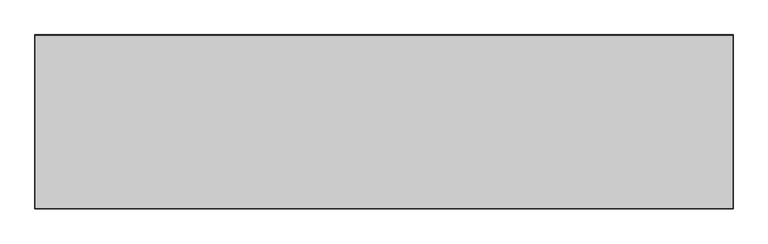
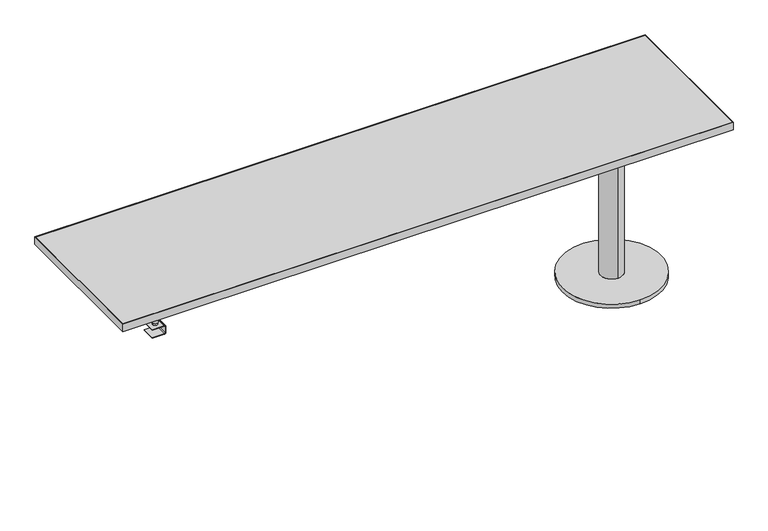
"""IFC4 building model written with IfcOpenShell, lengths in millimetres: furniture geometry, Steelcase Coalesse - Topo - Desktop - Freestanding Straight Ancillary : 96W x 24D - Right - Flat Edge."""

import ifcopenshell
import ifcopenshell.guid

model = None  # the IFC model being written
_history = None  # IfcOwnerHistory: only IFC2X3 demands one
_inside = {}  # id of a spatial element -> (the spatial element, [elements in it])
_under = {}  # id of a project, library or spatial element -> (it, [spatial elements below it])
_declared = {}  # id of a project -> (the project, [libraries it declares])
_typed = {}  # id of a type object -> (the type object, [elements of that type])
_made_of = {}  # id of a material, layer set ... -> (it, [elements and type objects made of it])


def new_model(schema):
    """Start an empty IFC model of exactly this schema.

    Asked for "IFC4X3", IfcOpenShell would pick the latest addendum, in which some entities
    have other attributes; the version numbers below select the first issue.
    IFC2X3 requires an IfcOwnerHistory on every rooted entity: one is made here for all.
    """
    global model, _history
    if schema == "IFC4X3":
        model = ifcopenshell.file(schema_version=(4, 3, 0, 0))
    else:
        model = ifcopenshell.file(schema=schema)
    _inside.clear()
    _under.clear()
    _declared.clear()
    _typed.clear()
    _made_of.clear()
    _history = None
    if model.schema == "IFC2X3":
        org = make("IfcOrganization", Name="unknown")
        user = make(
            "IfcPersonAndOrganization",
            ThePerson=make("IfcPerson", FamilyName="unknown"),
            TheOrganization=org,
        )
        app = make(
            "IfcApplication",
            ApplicationDeveloper=org,
            Version="unknown",
            ApplicationFullName="unknown",
            ApplicationIdentifier="unknown",
        )
        _history = make(
            "IfcOwnerHistory",
            OwningUser=user,
            OwningApplication=app,
            ChangeAction="ADDED",
            CreationDate=0,
        )
    return model


def make(cls, **values):
    """One entity of the class cls with the attributes given. An attribute that is None is left unset."""
    return model.create_entity(
        cls, **{name: value for name, value in values.items() if value is not None}
    )


def rooted(cls, **values):
    """An entity with a GlobalId (a new one), such as an element, a storey or a relation."""
    return make(cls, GlobalId=ifcopenshell.guid.new(), OwnerHistory=_history, **values)


def si_unit(unit_type, name, prefix=None):
    """IfcSIUnit, for example si_unit("LENGTHUNIT", "METRE", prefix="MILLI")."""
    return make("IfcSIUnit", UnitType=unit_type, Prefix=prefix, Name=name)


def assignment(units):
    """IfcUnitAssignment: the units of a project."""
    return None if units is None else make("IfcUnitAssignment", Units=units)


def point(xyz):
    """IfcCartesianPoint."""
    return None if xyz is None else make("IfcCartesianPoint", Coordinates=xyz)


def direction(xyz):
    """IfcDirection."""
    return None if xyz is None else make("IfcDirection", DirectionRatios=xyz)


def frame(location, z_axis=None, x_axis=None):
    """IfcAxis2Placement3D, a coordinate frame: its origin and axes. An axis left out is left unset."""
    return make(
        "IfcAxis2Placement3D",
        Location=point(location),
        Axis=direction(z_axis),
        RefDirection=direction(x_axis),
    )


def origin():
    """The frame at (0, 0, 0) with its axes left unset."""
    return frame((0.0, 0.0, 0.0))


def place(relative_to, where):
    """IfcLocalPlacement: puts the frame where relative to a parent placement (None: the world)."""
    return make(
        "IfcLocalPlacement", PlacementRelTo=relative_to, RelativePlacement=where
    )


def context(
    kind, dimensions, precision=None, world=None, true_north=None, identifier=None
):
    """IfcGeometricRepresentationContext, for example the 3D "Model" context."""
    return make(
        "IfcGeometricRepresentationContext",
        ContextIdentifier=identifier,
        ContextType=kind,
        CoordinateSpaceDimension=dimensions,
        Precision=precision,
        WorldCoordinateSystem=world,
        TrueNorth=true_north,
    )


def project(units=None, contexts=None):
    """IfcProject with its units and contexts."""
    return rooted(
        "IfcProject",
        Name="project",
        RepresentationContexts=contexts,
        UnitsInContext=assignment(units),
    )


def spatial(cls, under=None, at=None, **own):
    """A site, building, storey or space (cls), placed at a placement, below another one or the project."""
    s = rooted(cls, ObjectPlacement=at, **own)
    if under is not None:
        _under.setdefault(under.id(), (under, []))[1].append(s)
    return s


def polyline(points):
    """IfcPolyline through the points."""
    return make("IfcPolyline", Points=[point(p) for p in points])


def circle_curve(where, radius):
    """IfcCircle in the frame where."""
    return make("IfcCircle", Position=where, Radius=radius)


def outline(outer, holes=None, kind="AREA"):
    """IfcArbitraryClosedProfileDef: a profile drawn as a closed curve; with holes, ...WithVoids."""
    if holes is None:
        return make("IfcArbitraryClosedProfileDef", ProfileType=kind, OuterCurve=outer)
    return make(
        "IfcArbitraryProfileDefWithVoids",
        ProfileType=kind,
        OuterCurve=outer,
        InnerCurves=holes,
    )


def extrude(swept, where, along, depth):
    """IfcExtrudedAreaSolid: the profile swept, set in the frame where, extruded along a direction by depth."""
    return make(
        "IfcExtrudedAreaSolid",
        SweptArea=swept,
        Position=where,
        ExtrudedDirection=direction(along),
        Depth=depth,
    )


def shape(context_of_items, identifier, shape_type, items):
    """IfcShapeRepresentation: the items that make up one representation, for example the "Body"."""
    return make(
        "IfcShapeRepresentation",
        ContextOfItems=context_of_items,
        RepresentationIdentifier=identifier,
        RepresentationType=shape_type,
        Items=items,
    )


def source(mapping_origin, context_of_items, identifier, shape_type, items):
    """IfcRepresentationMap: a shape defined once, which mapped items show again and again."""
    return make(
        "IfcRepresentationMap",
        MappingOrigin=mapping_origin,
        MappedRepresentation=shape(context_of_items, identifier, shape_type, items),
    )


def transform(
    local_origin,
    x_axis=None,
    y_axis=None,
    z_axis=None,
    scale=None,
    scale2=None,
    scale3=None,
    uniform=True,
):
    """IfcCartesianTransformationOperator3D, or its non-uniform kind. x_axis, y_axis, z_axis: its Axis1, 2, 3."""
    if uniform:
        return make(
            "IfcCartesianTransformationOperator3D",
            Axis1=direction(x_axis),
            Axis2=direction(y_axis),
            LocalOrigin=point(local_origin),
            Scale=scale,
            Axis3=direction(z_axis),
        )
    return make(
        "IfcCartesianTransformationOperator3DnonUniform",
        Axis1=direction(x_axis),
        Axis2=direction(y_axis),
        LocalOrigin=point(local_origin),
        Scale=scale,
        Axis3=direction(z_axis),
        Scale2=scale2,
        Scale3=scale3,
    )


def mapped(mapping_source, mapping_target):
    """IfcMappedItem: shows the shape of a source again, moved by a transform."""
    return make(
        "IfcMappedItem", MappingSource=mapping_source, MappingTarget=mapping_target
    )


def made_of(thing, what):
    """Note that an element or type object is made of a material, layer set ...; save() writes the relation."""
    if what is not None:
        _made_of.setdefault(what.id(), (what, []))[1].append(thing)
    return thing


def element(
    cls,
    number,
    at=None,
    inside=None,
    cuts=None,
    type_object=None,
    material=None,
    context=None,
    identifier="Body",
    shape_type=None,
    held_by="IfcProductDefinitionShape",
    body=None,
    shapes=None,
    **own,
):
    """One element of the class cls, such as IfcWall. Its Tag is "e" and its number.

    at: its placement. inside: the storey or other place that contains it. cuts: it is an
    opening in that element (IfcRelVoidsElement). A single representation is given by context,
    identifier, shape_type and body (its items); several are given by shapes. held_by: the class
    of the entity that holds the representations. save() writes the other relations.
    """
    e = rooted(cls, Tag="e%d" % number, ObjectPlacement=at, **own)
    if body is not None:
        shapes = [shape(context, identifier, shape_type, body)]
    if shapes is not None:
        e.Representation = make(held_by, Representations=shapes)
    if inside is not None:
        _inside.setdefault(inside.id(), (inside, []))[1].append(e)
    if cuts is not None:
        rooted(
            "IfcRelVoidsElement", RelatingBuildingElement=cuts, RelatedOpeningElement=e
        )
    if type_object is not None:
        _typed.setdefault(type_object.id(), (type_object, []))[1].append(e)
    return made_of(e, material)


def aggregate(whole, parts):
    """IfcRelAggregates: a whole, such as a stair, and the parts it consists of."""
    return rooted("IfcRelAggregates", RelatingObject=whole, RelatedObjects=parts)


def save(model, path):
    """Write the relations noted so far, then the file.

    IfcRelAggregates (storeys below a building ...), IfcRelContainedInSpatialStructure (elements
    in a storey), IfcRelDefinesByType, IfcRelAssociatesMaterial and IfcRelDeclares: one each for
    every whole, place, type object, material and project.
    """
    for whole, parts in _under.values():
        aggregate(whole, parts)
    for where, things in _inside.values():
        rooted(
            "IfcRelContainedInSpatialStructure",
            RelatedElements=things,
            RelatingStructure=where,
        )
    for kind, things in _typed.values():
        rooted("IfcRelDefinesByType", RelatedObjects=things, RelatingType=kind)
    for what, things in _made_of.values():
        rooted("IfcRelAssociatesMaterial", RelatedObjects=things, RelatingMaterial=what)
    for by, libraries in _declared.values():
        rooted("IfcRelDeclares", RelatingContext=by, RelatedDefinitions=libraries)
    model.write(path)


def plane_surface(at):
    """IfcPlane: the flat surface through the origin of the frame at, square to its z axis."""
    return make("IfcPlane", Position=at)


def cylinder_surface(at, radius):
    """IfcCylindricalSurface: all points at the distance radius from the z axis of the frame at."""
    return make("IfcCylindricalSurface", Position=at, Radius=radius)


def revolved_surface(curve, axis_point, axis_direction):
    """IfcSurfaceOfRevolution: the curve turned about the line through axis_point along axis_direction."""
    return make(
        "IfcSurfaceOfRevolution",
        SweptCurve=make("IfcArbitraryOpenProfileDef", ProfileType="CURVE", Curve=curve),
        AxisPosition=make("IfcAxis1Placement", Location=point(axis_point), Axis=direction(axis_direction)),
    )


def advanced_brep(points, edges, surfaces, faces):
    """IfcAdvancedBrep: a solid bounded by faces that lie on surfaces and meet in shared edges.

    An edge is (start, end): straight between two places in points (the first is 0);
    or (start, end, curve); or (start, end, curve, False) where it runs against its curve.
    A face is (place in surfaces, loops), or (place, loops, False) where it looks against
    its surface's normal. A loop lists edges by number (the first is 1), with a minus sign
    where the edge is run from its end to its start. The first loop is the outer one.
    """
    corners = [point(p) for p in points]
    vertices = [make("IfcVertexPoint", VertexGeometry=c) for c in corners]
    made = []
    for start, end, *more in edges:
        made.append(
            make(
                "IfcEdgeCurve",
                EdgeStart=vertices[start],
                EdgeEnd=vertices[end],
                EdgeGeometry=more[0] if more else make("IfcPolyline", Points=[corners[start], corners[end]]),
                SameSense=more[1] if len(more) > 1 else True,
            )
        )
    hull = []
    for where, loops, *sense in faces:
        bounds = []
        for j, loop in enumerate(loops):
            ring = [make("IfcOrientedEdge", EdgeElement=made[abs(k) - 1], Orientation=k > 0) for k in loop]
            bounds.append(
                make(
                    "IfcFaceOuterBound" if j == 0 else "IfcFaceBound",
                    Bound=make("IfcEdgeLoop", EdgeList=ring),
                    Orientation=True,
                )
            )
        hull.append(make("IfcAdvancedFace", Bounds=bounds, FaceSurface=surfaces[where], SameSense=sense[0] if sense else True))
    return make("IfcAdvancedBrep", Outer=make("IfcClosedShell", CfsFaces=hull))


def furniture_59a98a84(model_context):
    return source(origin(), model_context, "Body", "SolidModel", [
        advanced_brep(
        [(2128.774, -501.6500363, 16.8148), (2128.774, -107.9500363, 16.8148), (2128.774, -260.3500363, 16.8148), (2128.774, -349.2500363, 16.8148), (2128.774, -501.6500363, 0.0), (2128.774, -107.9500363, 0.0), (2128.774, -349.2500363, 635.0), (2128.774, -260.3500363, 635.0), (2128.774, -269.8509568, 635.0), (2128.774, -339.7491159, 635.0), (2128.774, -339.7491159, 688.975), (2128.774, -269.8509568, 688.975), (2230.3741938, -203.2000242, 692.15), (2027.1738062, -203.2000242, 692.15), (2027.1738062, -406.4000484, 692.15), (2230.3741938, -406.4000484, 692.15), (2230.3741938, -203.2000242, 688.975), (2230.3741938, -406.4000484, 688.975), (2027.1738062, -406.4000484, 688.975), (2027.1738062, -203.2000242, 688.975)],
        [
            (0, 1, circle_curve(frame((2128.774, -304.8000363, 16.8148), z_axis=(0.0, 0.0, 1.0), x_axis=(0.0, 1.0, 0.0)), 196.85)),
            (1, 0, circle_curve(frame((2128.774, -304.8000363, 16.8148), z_axis=(0.0, 0.0, 1.0), x_axis=(0.0, 1.0, 0.0)), 196.85)),
            (2, 3, circle_curve(frame((2128.774, -304.8000363, 16.8148), z_axis=(0.0, 0.0, -1.0), x_axis=(0.0, 1.0, 0.0)), 44.45)),
            (3, 2, circle_curve(frame((2128.774, -304.8000363, 16.8148), z_axis=(0.0, 0.0, -1.0), x_axis=(0.0, 1.0, 0.0)), 44.45)),
            (4, 5, circle_curve(frame((2128.774, -304.8000363, 0.0), z_axis=(0.0, 0.0, -1.0), x_axis=(0.0, 1.0, 0.0)), 196.85)),
            (5, 4, circle_curve(frame((2128.774, -304.8000363, 0.0), z_axis=(0.0, 0.0, -1.0), x_axis=(0.0, 1.0, 0.0)), 196.85)),
            (0, 4),
            (5, 1),
            (6, 7, circle_curve(frame((2128.774, -304.8000363, 635.0), z_axis=(0.0, 0.0, 1.0), x_axis=(0.0, 1.0, 0.0)), 44.45)),
            (7, 6, circle_curve(frame((2128.774, -304.8000363, 635.0), z_axis=(0.0, 0.0, 1.0), x_axis=(0.0, 1.0, 0.0)), 44.45)),
            (8, 9, circle_curve(frame((2128.774, -304.8000363, 635.0), z_axis=(0.0, 0.0, -1.0), x_axis=(0.0, 1.0, 0.0)), 34.9490796)),
            (9, 8, circle_curve(frame((2128.774, -304.8000363, 635.0), z_axis=(0.0, 0.0, -1.0), x_axis=(0.0, 1.0, 0.0)), 34.9490796)),
            (6, 3),
            (2, 7),
            (10, 9),
            (8, 11),
            (11, 10, circle_curve(frame((2128.774, -304.8000363, 688.975), z_axis=(0.0, 0.0, -1.0), x_axis=(0.0, 1.0, 0.0)), 34.9490796)),
            (10, 11, circle_curve(frame((2128.774, -304.8000363, 688.975), z_axis=(0.0, 0.0, -1.0), x_axis=(0.0, 1.0, 0.0)), 34.9490796)),
            (12, 13),
            (13, 14),
            (14, 15),
            (15, 12),
            (16, 17),
            (17, 18),
            (18, 19),
            (19, 16),
            (12, 16),
            (19, 13),
            (18, 14),
            (17, 15),
        ],
        [
            plane_surface(frame((2128.774, -107.9500363, 16.8148), z_axis=(0.0, 0.0, 1.0), x_axis=(-1.0, 0.0, 0.0))),
            plane_surface(frame((2128.774, -107.9500363, 0.0), z_axis=(0.0, 0.0, -1.0), x_axis=(1.0, 0.0, 0.0))),
            cylinder_surface(frame((2128.774, -304.8000363, 0.0), z_axis=(0.0, 0.0, 1.0), x_axis=(0.0, 1.0, 0.0)), 196.85),
            plane_surface(frame((2128.774, -260.3500363, 635.0), z_axis=(0.0, 0.0, 1.0), x_axis=(-1.0, 0.0, 0.0))),
            cylinder_surface(frame((2128.774, -304.8000363, 0.0), z_axis=(0.0, 0.0, 1.0), x_axis=(0.0, 1.0, 0.0)), 44.45),
            cylinder_surface(frame((2128.774, -304.8000363, 635.0), z_axis=(0.0, 0.0, 1.0), x_axis=(0.0, 1.0, 0.0)), 34.9490796),
            plane_surface(frame((2027.1738062, -203.2000242, 692.15), z_axis=(0.0, 0.0, 1.0), x_axis=(-1.0, 0.0, 0.0))),
            plane_surface(frame((2027.1738062, -203.2000242, 688.975), z_axis=(0.0, 0.0, -1.0), x_axis=(1.0, 0.0, 0.0))),
            plane_surface(frame((2230.3741938, -203.2000242, 692.15), z_axis=(0.0, 1.0, 0.0), x_axis=(0.0, 0.0, -1.0))),
            plane_surface(frame((2027.1738062, -203.2000242, 692.15), z_axis=(-1.0, 0.0, 0.0), x_axis=(0.0, 0.0, -1.0))),
            plane_surface(frame((2027.1738062, -406.4000484, 692.15), z_axis=(0.0, -1.0, 0.0), x_axis=(0.0, 0.0, -1.0))),
            plane_surface(frame((2230.3741938, -406.4000484, 692.15), z_axis=(1.0, 0.0, 0.0), x_axis=(0.0, 0.0, -1.0))),
        ],
        [
            (0, [[1, 2], [3, 4]]),
            (1, [[5, 6]]),
            (2, [[-1, 7, -6, 8]]),
            (2, [[-2, -8, -5, -7]]),
            (3, [[9, 10], [11, 12]]),
            (4, [[-9, 13, -3, 14]]),
            (4, [[-10, -14, -4, -13]]),
            (5, [[15, -11, 16, 17]]),
            (5, [[-15, 18, -16, -12]]),
            (6, [[19, 20, 21, 22]]),
            (7, [[23, 24, 25, 26], [-17, -18]]),
            (8, [[-19, 27, -26, 28]]),
            (9, [[-20, -28, -25, 29]]),
            (10, [[-21, -29, -24, 30]]),
            (11, [[-22, -30, -23, -27]]),
        ],
    ),
        extrude(outline(polyline([(2437.383783, -3.1750242), (2437.383783, -606.4250484), (1.016217, -606.4250484), (1.016217, -3.1750242), (2437.383783, -3.1750242)])), frame((0.0, 0.0, 692.15), z_axis=(0.0, 0.0, 1.0), x_axis=(1.0, 0.0, 0.0)), (0.0, 0.0, 1.0), 31.75),
        extrude(outline(polyline([(2438.4, 0.0), (2438.4, -609.6), (0.0, -609.6), (0.0, 0.0), (2438.4, 0.0)]), holes=[polyline([(2437.383783, -3.1750242), (1.016217, -3.1750242), (1.016217, -606.4250484), (2437.383783, -606.4250484), (2437.383783, -3.1750242)])]), frame((0.0, 0.0, 692.15), z_axis=(0.0, 0.0, 1.0), x_axis=(1.0, 0.0, 0.0)), (0.0, 0.0, 1.0), 31.75),
        extrude(outline(polyline([(-109.2200048, 691.1168589), (-127.2794, 691.1168589), (-127.2794, 682.2694), (-171.1706, 682.2694), (-171.1706, 691.1168589), (-189.2300194, 691.1168589), (-189.2300194, 692.15), (-170.18, 692.15), (-170.18, 683.304655), (-128.27, 683.304655), (-128.27, 692.15), (-109.2200048, 692.15), (-109.2200048, 691.1168589)])), frame((57.0738, 0.0, 0.0), z_axis=(1.0, 0.0, 0.0), x_axis=(0.0, 1.0, 0.0)), (0.0, 0.0, 1.0), 2324.2523581),
        extrude(outline(polyline([(-564.8960426, 691.1168589), (-564.8960426, 692.15), (-545.8460475, 692.15), (-545.8460475, 683.304655), (-503.9360475, 683.304655), (-503.9360475, 692.15), (-484.8860281, 692.15), (-484.8860281, 691.1168589), (-502.9454475, 691.1168589), (-502.9454475, 682.2694), (-546.8366475, 682.2694), (-546.8366475, 691.1168589), (-564.8960426, 691.1168589)])), frame((57.0738, 0.0, 0.0), z_axis=(1.0, 0.0, 0.0), x_axis=(0.0, 1.0, 0.0)), (0.0, 0.0, 1.0), 2324.2523581),
        advanced_brep(
        [(171.4500969, -267.5128138, 692.15), (107.9499031, -267.5128138, 692.15), (107.9499031, -331.0127895, 692.15), (171.4500969, -331.0127895, 692.15), (171.4500969, -267.5128138, 688.975), (171.4500969, -331.0127895, 688.975), (107.9499031, -331.0127895, 688.975), (107.9499031, -267.5128138, 688.975), (139.7, -318.3128016, 688.975), (139.7, -280.2128016, 688.975), (139.7, -318.3128016, 655.6248), (139.7, -280.2128016, 655.6248), (139.7, -310.4626736, 655.6248), (139.7, -288.0629297, 655.6248), (139.7, -310.4626736, 621.2586), (139.7, -288.0629297, 621.2586), (139.7, -314.5105403, 621.2586), (139.7, -284.015063, 621.2586), (139.7, -314.5105403, 615.1626), (139.7, -284.015063, 615.1626), (139.7, -311.9628016, 615.1626), (139.7, -286.5628016, 615.1626), (139.7, -311.9628016, 609.4984), (139.7, -286.5628016, 609.4984)],
        [
            (0, 1),
            (1, 2),
            (2, 3),
            (3, 0),
            (4, 5),
            (5, 6),
            (6, 7),
            (7, 4),
            (8, 9, circle_curve(frame((139.7, -299.2628016, 688.975), z_axis=(0.0, 0.0, 1.0), x_axis=(0.0, 1.0, 0.0)), 19.05)),
            (9, 8, circle_curve(frame((139.7, -299.2628016, 688.975), z_axis=(0.0, 0.0, 1.0), x_axis=(0.0, 1.0, 0.0)), 19.05)),
            (0, 4),
            (7, 1),
            (6, 2),
            (5, 3),
            (10, 11, circle_curve(frame((139.7, -299.2628016, 655.6248), z_axis=(0.0, 0.0, -1.0), x_axis=(0.0, 1.0, 0.0)), 19.05)),
            (11, 10, circle_curve(frame((139.7, -299.2628016, 655.6248), z_axis=(0.0, 0.0, -1.0), x_axis=(0.0, 1.0, 0.0)), 19.05)),
            (12, 13, circle_curve(frame((139.7, -299.2628016, 655.6248), z_axis=(0.0, 0.0, 1.0), x_axis=(0.0, 1.0, 0.0)), 11.1998719)),
            (13, 12, circle_curve(frame((139.7, -299.2628016, 655.6248), z_axis=(0.0, 0.0, 1.0), x_axis=(0.0, 1.0, 0.0)), 11.1998719)),
            (11, 9),
            (8, 10),
            (12, 14),
            (14, 15, circle_curve(frame((139.7, -299.2628016, 621.2586), z_axis=(0.0, 0.0, 1.0), x_axis=(0.0, 1.0, 0.0)), 11.1998719)),
            (15, 13),
            (15, 14, circle_curve(frame((139.7, -299.2628016, 621.2586), z_axis=(0.0, 0.0, 1.0), x_axis=(0.0, 1.0, 0.0)), 11.1998719)),
            (16, 17, circle_curve(frame((139.7, -299.2628016, 621.2586), z_axis=(0.0, 0.0, 1.0), x_axis=(0.0, 1.0, 0.0)), 15.2477387)),
            (17, 16, circle_curve(frame((139.7, -299.2628016, 621.2586), z_axis=(0.0, 0.0, 1.0), x_axis=(0.0, 1.0, 0.0)), 15.2477387)),
            (18, 19, circle_curve(frame((139.7, -299.2628016, 615.1626), z_axis=(0.0, 0.0, -1.0), x_axis=(0.0, 1.0, 0.0)), 15.2477387)),
            (19, 18, circle_curve(frame((139.7, -299.2628016, 615.1626), z_axis=(0.0, 0.0, -1.0), x_axis=(0.0, 1.0, 0.0)), 15.2477387)),
            (20, 21, circle_curve(frame((139.7, -299.2628016, 615.1626), z_axis=(0.0, 0.0, 1.0), x_axis=(0.0, 1.0, 0.0)), 12.7)),
            (21, 20, circle_curve(frame((139.7, -299.2628016, 615.1626), z_axis=(0.0, 0.0, 1.0), x_axis=(0.0, 1.0, 0.0)), 12.7)),
            (16, 18),
            (19, 17),
            (22, 23, circle_curve(frame((139.7, -299.2628016, 609.4984), z_axis=(0.0, 0.0, -1.0), x_axis=(0.0, 1.0, 0.0)), 12.7)),
            (23, 22, circle_curve(frame((139.7, -299.2628016, 609.4984), z_axis=(0.0, 0.0, -1.0), x_axis=(0.0, 1.0, 0.0)), 12.7)),
            (23, 21),
            (20, 22),
        ],
        [
            plane_surface(frame((107.9499031, -267.5128138, 692.15), z_axis=(0.0, 0.0, 1.0), x_axis=(-1.0, 0.0, 0.0))),
            plane_surface(frame((107.9499031, -267.5128138, 688.975), z_axis=(0.0, 0.0, -1.0), x_axis=(1.0, 0.0, 0.0))),
            plane_surface(frame((171.4500969, -267.5128138, 692.15), z_axis=(0.0, 1.0, 0.0), x_axis=(0.0, 0.0, -1.0))),
            plane_surface(frame((107.9499031, -267.5128138, 692.15), z_axis=(-1.0, 0.0, 0.0), x_axis=(0.0, 0.0, -1.0))),
            plane_surface(frame((107.9499031, -331.0127895, 692.15), z_axis=(0.0, -1.0, 0.0), x_axis=(0.0, 0.0, -1.0))),
            plane_surface(frame((171.4500969, -331.0127895, 692.15), z_axis=(1.0, 0.0, 0.0), x_axis=(0.0, 0.0, -1.0))),
            plane_surface(frame((139.7, -280.2128016, 655.6248), z_axis=(0.0, 0.0, -1.0), x_axis=(1.0, 0.0, 0.0))),
            cylinder_surface(frame((139.7, -299.2628016, 655.6248), z_axis=(0.0, 0.0, 1.0), x_axis=(0.0, 1.0, 0.0)), 19.05),
            cylinder_surface(frame((139.7, -299.2628016, 621.2586), z_axis=(0.0, 0.0, 1.0), x_axis=(0.0, 1.0, 0.0)), 11.1998719),
            plane_surface(frame((139.7, -284.015063, 621.2586), z_axis=(0.0, 0.0, 1.0), x_axis=(-1.0, 0.0, 0.0))),
            plane_surface(frame((139.7, -284.015063, 615.1626), z_axis=(0.0, 0.0, -1.0), x_axis=(1.0, 0.0, 0.0))),
            cylinder_surface(frame((139.7, -299.2628016, 615.1626), z_axis=(0.0, 0.0, 1.0), x_axis=(0.0, 1.0, 0.0)), 15.2477387),
            plane_surface(frame((139.7, -286.5628016, 609.4984), z_axis=(0.0, 0.0, -1.0), x_axis=(1.0, 0.0, 0.0))),
            cylinder_surface(frame((139.7, -299.2628016, 609.4984), z_axis=(0.0, 0.0, 1.0), x_axis=(0.0, 1.0, 0.0)), 12.7),
        ],
        [
            (0, [[1, 2, 3, 4]]),
            (1, [[5, 6, 7, 8], [9, 10]]),
            (2, [[-1, 11, -8, 12]]),
            (3, [[-2, -12, -7, 13]]),
            (4, [[-3, -13, -6, 14]]),
            (5, [[-4, -14, -5, -11]]),
            (6, [[15, 16], [17, 18]]),
            (7, [[-16, 19, -9, 20]]),
            (7, [[-15, -20, -10, -19]]),
            (8, [[21, 22, 23, -17]]),
            (8, [[-21, -18, -23, 24]]),
            (9, [[25, 26], [-22, -24]]),
            (10, [[27, 28], [29, 30]]),
            (11, [[-25, 31, -28, 32]]),
            (11, [[-26, -32, -27, -31]]),
            (12, [[33, 34]]),
            (13, [[-34, 35, -29, 36]]),
            (13, [[-33, -36, -30, -35]]),
        ],
    ),
        advanced_brep(
        [(200.6639385, -123.825, 612.0384), (205.7439287, -123.825, 606.9584098), (205.7439287, -123.825, 580.2884171), (200.6639117, -123.825, 575.2084), (152.4041613, -123.825, 575.2084), (152.4041613, -123.825, 577.7484), (200.6641613, -123.825, 577.7484), (203.2039675, -123.825, 580.2882062), (203.2039675, -123.825, 606.9584098), (200.6639773, -123.825, 609.4984), (152.4041613, -123.825, 609.4984), (152.4041613, -123.825, 612.0384), (200.6639385, -549.2750484, 612.0384), (152.4041613, -549.2750484, 612.0384), (152.4041613, -549.2750484, 609.4984), (200.6639773, -549.2750484, 609.4984), (203.2039675, -549.2750484, 606.9584098), (203.2039675, -549.2750484, 580.2882062), (200.6641613, -549.2750484, 577.7484), (152.4041613, -549.2750484, 577.7484), (152.4041613, -549.2750484, 575.2084), (200.6639117, -549.2750484, 575.2084), (205.7439287, -549.2750484, 580.2884171), (205.7439287, -549.2750484, 606.9584098), (152.4041613, -493.3950291, 575.2084), (196.8543551, -493.3950291, 575.2084), (196.8543551, -180.7210184, 575.2084), (152.4041613, -180.7210184, 575.2084), (152.4041613, -180.7210184, 577.7484), (152.4041613, -493.3950291, 577.7484), (196.8543551, -180.7210184, 577.7484), (196.8543551, -493.3950291, 577.7484), (152.4041613, -493.3950291, 609.4984), (196.8543551, -493.3950291, 609.4984), (196.8543551, -180.7210184, 609.4984), (152.4041613, -180.7210184, 609.4984), (152.4041613, -180.7210184, 612.0384), (152.4041613, -493.3950291, 612.0384), (196.8543551, -180.7210184, 612.0384), (196.8543551, -493.3950291, 612.0384), (168.1523551, -150.1981097, 612.0384), (187.4563551, -150.1981097, 612.0384), (168.1523551, -523.9179378, 612.0384), (187.4563551, -523.9179378, 612.0384), (146.0537737, -175.6410959, 682.2694), (209.5543551, -175.6410959, 682.2694), (215.9043551, -169.2910959, 682.2694), (215.9043551, -131.1051235, 682.2694), (208.5135646, -124.840999, 682.2694), (147.0945642, -124.840999, 682.2694), (139.7043551, -131.1910475, 682.2694), (139.7043551, -169.2051719, 682.2694), (146.0537737, -498.4749516, 682.2694), (139.7043551, -504.9108755, 682.2694), (139.7043551, -542.925, 682.2694), (147.0945642, -549.2750484, 682.2694), (208.5135646, -549.2750484, 682.2694), (215.9043551, -543.010924, 682.2694), (215.9043551, -504.8249516, 682.2694), (209.5543551, -498.4749516, 682.2694), (146.0537737, -175.6410959, 679.0944), (139.7043551, -169.2051719, 679.0944), (139.7043551, -131.1910475, 679.0944), (147.0945642, -124.840999, 679.0944), (208.5135646, -124.840999, 679.0944), (215.9043551, -131.1051235, 679.0944), (215.9043551, -169.2910959, 679.0944), (209.5543551, -175.6410959, 679.0944), (166.6283551, -150.1981097, 679.0944), (188.9803551, -150.1981097, 679.0944), (146.0537737, -498.4749516, 679.0944), (209.5543551, -498.4749516, 679.0944), (215.9043551, -504.8249516, 679.0944), (215.9043551, -543.010924, 679.0944), (208.5135646, -549.2750484, 679.0944), (147.0945642, -549.2750484, 679.0944), (139.7043551, -542.925, 679.0944), (139.7043551, -504.9108755, 679.0944), (166.6283551, -523.9179378, 679.0944), (188.9803551, -523.9179378, 679.0944), (187.4563551, -150.1981097, 621.2586), (168.1523551, -150.1981097, 621.2586), (187.4563551, -523.9179378, 621.2586), (168.1523551, -523.9179378, 621.2586), (166.6283551, -150.1981097, 621.2586), (188.9803551, -150.1981097, 621.2586), (166.6283551, -523.9179378, 621.2586), (188.9803551, -523.9179378, 621.2586)],
        [
            (0, 1, circle_curve(frame((200.6639385, -123.825, 606.9584098), z_axis=(0.0, 1.0, 0.0), x_axis=(-1.0, 0.0, 0.0)), 5.0799902)),
            (1, 2),
            (2, 3, circle_curve(frame((200.6639117, -123.825, 580.2884171), z_axis=(0.0, 1.0, 0.0), x_axis=(-1.0, 0.0, 0.0)), 5.0800171)),
            (3, 4),
            (4, 5),
            (5, 6),
            (6, 7, circle_curve(frame((200.6641613, -123.825, 580.2882062), z_axis=(0.0, -1.0, 0.0), x_axis=(-1.0, 0.0, 0.0)), 2.5398062)),
            (7, 8),
            (8, 9, circle_curve(frame((200.6639773, -123.825, 606.9584098), z_axis=(0.0, -1.0, 0.0), x_axis=(-1.0, 0.0, 0.0)), 2.5399902)),
            (9, 10),
            (10, 11),
            (11, 0),
            (12, 13),
            (13, 14),
            (14, 15),
            (15, 16, circle_curve(frame((200.6639773, -549.2750484, 606.9584098), z_axis=(0.0, 1.0, 0.0), x_axis=(-1.0, 0.0, 0.0)), 2.5399902)),
            (16, 17),
            (17, 18, circle_curve(frame((200.6641613, -549.2750484, 580.2882062), z_axis=(0.0, 1.0, 0.0), x_axis=(-1.0, 0.0, 0.0)), 2.5398062)),
            (18, 19),
            (19, 20),
            (20, 21),
            (21, 22, circle_curve(frame((200.6639117, -549.2750484, 580.2884171), z_axis=(0.0, -1.0, 0.0), x_axis=(-1.0, 0.0, 0.0)), 5.0800171)),
            (22, 23),
            (23, 12, circle_curve(frame((200.6639385, -549.2750484, 606.9584098), z_axis=(0.0, -1.0, 0.0), x_axis=(-1.0, 0.0, 0.0)), 5.0799902)),
            (0, 12),
            (23, 1),
            (22, 2),
            (21, 3),
            (20, 24),
            (24, 25),
            (25, 26),
            (26, 27),
            (27, 4),
            (27, 28),
            (28, 5),
            (19, 29),
            (29, 24),
            (28, 30),
            (30, 31),
            (31, 29),
            (18, 6),
            (17, 7),
            (16, 8),
            (15, 9),
            (14, 32),
            (32, 33),
            (33, 34),
            (34, 35),
            (35, 10),
            (35, 36),
            (36, 11),
            (13, 37),
            (37, 32),
            (36, 38),
            (38, 39),
            (39, 37),
            (40, 41, circle_curve(frame((177.8043551, -150.1981097, 612.0384), z_axis=(0.0, 0.0, -1.0), x_axis=(-1.0, 0.0, 0.0)), 9.652)),
            (41, 40, circle_curve(frame((177.8043551, -150.1981097, 612.0384), z_axis=(0.0, 0.0, -1.0), x_axis=(-1.0, 0.0, 0.0)), 9.652)),
            (42, 43, circle_curve(frame((177.8043551, -523.9179378, 612.0384), z_axis=(0.0, 0.0, -1.0), x_axis=(-1.0, 0.0, 0.0)), 9.652)),
            (43, 42, circle_curve(frame((177.8043551, -523.9179378, 612.0384), z_axis=(0.0, 0.0, -1.0), x_axis=(-1.0, 0.0, 0.0)), 9.652)),
            (31, 25),
            (39, 33),
            (26, 30),
            (34, 38),
            (44, 45),
            (45, 46, circle_curve(frame((209.5543551, -169.2910959, 682.2694), z_axis=(0.0, 0.0, 1.0), x_axis=(-1.0, 0.0, 0.0)), 6.35)),
            (46, 47),
            (47, 48, circle_curve(frame((209.5543551, -131.1051235, 682.2694), z_axis=(0.0, 0.0, 1.0), x_axis=(-1.0, 0.0, 0.0)), 6.35)),
            (48, 49),
            (49, 50, circle_curve(frame((146.0537737, -131.1051235, 682.2694), z_axis=(0.0, 0.0, 1.0), x_axis=(-1.0, 0.0, 0.0)), 6.35)),
            (50, 51),
            (51, 44, circle_curve(frame((146.0537737, -169.2910959, 682.2694), z_axis=(0.0, 0.0, 1.0), x_axis=(-1.0, 0.0, 0.0)), 6.35)),
            (52, 53, circle_curve(frame((146.0537737, -504.8249516, 682.2694), z_axis=(0.0, 0.0, 1.0), x_axis=(-1.0, 0.0, 0.0)), 6.35)),
            (53, 54),
            (54, 55, circle_curve(frame((146.0537737, -543.010924, 682.2694), z_axis=(0.0, 0.0, 1.0), x_axis=(-1.0, 0.0, 0.0)), 6.35)),
            (55, 56),
            (56, 57, circle_curve(frame((209.5543551, -543.010924, 682.2694), z_axis=(0.0, 0.0, 1.0), x_axis=(-1.0, 0.0, 0.0)), 6.35)),
            (57, 58),
            (58, 59, circle_curve(frame((209.5543551, -504.8249516, 682.2694), z_axis=(0.0, 0.0, 1.0), x_axis=(-1.0, 0.0, 0.0)), 6.35)),
            (59, 52),
            (60, 61, circle_curve(frame((146.0537737, -169.2910959, 679.0944), z_axis=(0.0, 0.0, -1.0), x_axis=(-1.0, 0.0, 0.0)), 6.35)),
            (61, 62),
            (62, 63, circle_curve(frame((146.0537737, -131.1051235, 679.0944), z_axis=(0.0, 0.0, -1.0), x_axis=(-1.0, 0.0, 0.0)), 6.35)),
            (63, 64),
            (64, 65, circle_curve(frame((209.5543551, -131.1051235, 679.0944), z_axis=(0.0, 0.0, -1.0), x_axis=(-1.0, 0.0, 0.0)), 6.35)),
            (65, 66),
            (66, 67, circle_curve(frame((209.5543551, -169.2910959, 679.0944), z_axis=(0.0, 0.0, -1.0), x_axis=(-1.0, 0.0, 0.0)), 6.35)),
            (67, 60),
            (68, 69, circle_curve(frame((177.8043551, -150.1981097, 679.0944), z_axis=(0.0, 0.0, 1.0), x_axis=(-1.0, 0.0, 0.0)), 11.176)),
            (69, 68, circle_curve(frame((177.8043551, -150.1981097, 679.0944), z_axis=(0.0, 0.0, 1.0), x_axis=(-1.0, 0.0, 0.0)), 11.176)),
            (70, 71),
            (71, 72, circle_curve(frame((209.5543551, -504.8249516, 679.0944), z_axis=(0.0, 0.0, -1.0), x_axis=(-1.0, 0.0, 0.0)), 6.35)),
            (72, 73),
            (73, 74, circle_curve(frame((209.5543551, -543.010924, 679.0944), z_axis=(0.0, 0.0, -1.0), x_axis=(-1.0, 0.0, 0.0)), 6.35)),
            (74, 75),
            (75, 76, circle_curve(frame((146.0537737, -543.010924, 679.0944), z_axis=(0.0, 0.0, -1.0), x_axis=(-1.0, 0.0, 0.0)), 6.35)),
            (76, 77),
            (77, 70, circle_curve(frame((146.0537737, -504.8249516, 679.0944), z_axis=(0.0, 0.0, -1.0), x_axis=(-1.0, 0.0, 0.0)), 6.35)),
            (78, 79, circle_curve(frame((177.8043551, -523.9179378, 679.0944), z_axis=(0.0, 0.0, 1.0), x_axis=(-1.0, 0.0, 0.0)), 11.176)),
            (79, 78, circle_curve(frame((177.8043551, -523.9179378, 679.0944), z_axis=(0.0, 0.0, 1.0), x_axis=(-1.0, 0.0, 0.0)), 11.176)),
            (44, 60),
            (67, 45),
            (66, 46),
            (65, 47),
            (64, 48),
            (63, 49),
            (62, 50),
            (61, 51),
            (52, 70),
            (77, 53),
            (76, 54),
            (75, 55),
            (74, 56),
            (73, 57),
            (72, 58),
            (71, 59),
            (80, 41),
            (40, 81),
            (81, 80, circle_curve(frame((177.8043551, -150.1981097, 621.2586), z_axis=(0.0, 0.0, -1.0), x_axis=(-1.0, 0.0, 0.0)), 9.652)),
            (80, 81, circle_curve(frame((177.8043551, -150.1981097, 621.2586), z_axis=(0.0, 0.0, -1.0), x_axis=(-1.0, 0.0, 0.0)), 9.652)),
            (82, 43),
            (42, 83),
            (83, 82, circle_curve(frame((177.8043551, -523.9179378, 621.2586), z_axis=(0.0, 0.0, -1.0), x_axis=(-1.0, 0.0, 0.0)), 9.652)),
            (82, 83, circle_curve(frame((177.8043551, -523.9179378, 621.2586), z_axis=(0.0, 0.0, -1.0), x_axis=(-1.0, 0.0, 0.0)), 9.652)),
            (84, 85, circle_curve(frame((177.8043551, -150.1981097, 621.2586), z_axis=(0.0, 0.0, -1.0), x_axis=(-1.0, 0.0, 0.0)), 11.176)),
            (85, 84, circle_curve(frame((177.8043551, -150.1981097, 621.2586), z_axis=(0.0, 0.0, -1.0), x_axis=(-1.0, 0.0, 0.0)), 11.176)),
            (86, 87, circle_curve(frame((177.8043551, -523.9179378, 621.2586), z_axis=(0.0, 0.0, -1.0), x_axis=(-1.0, 0.0, 0.0)), 11.176)),
            (87, 86, circle_curve(frame((177.8043551, -523.9179378, 621.2586), z_axis=(0.0, 0.0, -1.0), x_axis=(-1.0, 0.0, 0.0)), 11.176)),
            (85, 69),
            (68, 84),
            (87, 79),
            (78, 86),
        ],
        [
            plane_surface(frame((195.5839483, -123.825, 606.9584098), z_axis=(0.0, 1.0, 0.0), x_axis=(0.0, 0.0, 1.0))),
            plane_surface(frame((195.5839483, -549.2750484, 606.9584098), z_axis=(0.0, -1.0, 0.0), x_axis=(0.0, 0.0, -1.0))),
            cylinder_surface(frame((200.6639385, -549.2750484, 606.9584098), z_axis=(0.0, 1.0, 0.0), x_axis=(-1.0, 0.0, 0.0)), 5.0799902),
            plane_surface(frame((205.7439287, -123.825, 606.9584098), z_axis=(1.0, 0.0, 0.0), x_axis=(0.0, -1.0, 0.0))),
            cylinder_surface(frame((200.6639117, -549.2750484, 580.2884171), z_axis=(0.0, 1.0, 0.0), x_axis=(-1.0, 0.0, 0.0)), 5.0800171),
            plane_surface(frame((200.6639117, -123.825, 575.2084), z_axis=(0.0, 0.0, -1.0), x_axis=(0.0, -1.0, 0.0))),
            plane_surface(frame((152.4041613, -123.825, 575.2084), z_axis=(-1.0, 0.0, 0.0), x_axis=(0.0, -1.0, 0.0))),
            plane_surface(frame((152.4041613, -123.825, 577.7484), z_axis=(0.0, 0.0, 1.0), x_axis=(0.0, -1.0, 0.0))),
            revolved_surface(polyline([(198.1243551, -549.2750484, 580.2882062), (198.1243551, -123.82499999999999, 580.2882062)]), (200.6641613, -549.2750484, 580.2882062), (0.0, -1.0, 0.0)),
            plane_surface(frame((203.2039675, -123.825, 580.2882062), z_axis=(-1.0, 0.0, 0.0), x_axis=(0.0, -1.0, 0.0))),
            revolved_surface(polyline([(198.1239871, -549.2750484, 606.9584098), (198.1239871, -123.82499999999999, 606.9584098)]), (200.6639773, -549.2750484, 606.9584098), (0.0, -1.0, 0.0)),
            plane_surface(frame((200.6639773, -123.825, 609.4984), z_axis=(0.0, 0.0, -1.0), x_axis=(0.0, -1.0, 0.0))),
            plane_surface(frame((152.4041613, -123.825, 609.4984), z_axis=(-1.0, 0.0, 0.0), x_axis=(0.0, -1.0, 0.0))),
            plane_surface(frame((152.4041613, -123.825, 612.0384), z_axis=(0.0, 0.0, 1.0), x_axis=(0.0, -1.0, 0.0))),
            plane_surface(frame((196.8543551, -493.3950291, 575.2084), z_axis=(0.0, 1.0, 0.0), x_axis=(0.0, 0.0, 1.0))),
            plane_surface(frame((152.4041613, -180.7210184, 575.2084), z_axis=(0.0, -1.0, 0.0), x_axis=(0.0, 0.0, 1.0))),
            plane_surface(frame((196.8543551, -180.7210184, 575.2084), z_axis=(-1.0, 0.0, 0.0), x_axis=(0.0, 0.0, 1.0))),
            plane_surface(frame((209.5543551, -175.6410959, 682.2694), z_axis=(0.0, 0.0, 1.0), x_axis=(1.0, 0.0, 0.0))),
            plane_surface(frame((209.5543551, -175.6410959, 679.0944), z_axis=(0.0, 0.0, -1.0), x_axis=(-1.0, 0.0, 0.0))),
            plane_surface(frame((146.0537737, -175.6410959, 682.2694), z_axis=(0.0, -1.0, 0.0), x_axis=(0.0, 0.0, -1.0))),
            cylinder_surface(frame((209.5543551, -169.2910959, 679.0944), z_axis=(0.0, 0.0, 1.0), x_axis=(-1.0, 0.0, 0.0)), 6.35),
            plane_surface(frame((215.9043551, -169.2910959, 682.2694), z_axis=(1.0, 0.0, 0.0), x_axis=(0.0, 0.0, -1.0))),
            cylinder_surface(frame((209.5543551, -131.1051235, 679.0944), z_axis=(0.0, 0.0, 1.0), x_axis=(-1.0, 0.0, 0.0)), 6.35),
            plane_surface(frame((208.5135646, -124.840999, 682.2694), z_axis=(0.0, 1.0, 0.0), x_axis=(0.0, 0.0, -1.0))),
            cylinder_surface(frame((146.0537737, -131.1051235, 679.0944), z_axis=(0.0, 0.0, 1.0), x_axis=(-1.0, 0.0, 0.0)), 6.35),
            plane_surface(frame((139.7043551, -131.1910475, 682.2694), z_axis=(-1.0, 0.0, 0.0), x_axis=(0.0, 0.0, -1.0))),
            cylinder_surface(frame((146.0537737, -169.2910959, 679.0944), z_axis=(0.0, 0.0, 1.0), x_axis=(-1.0, 0.0, 0.0)), 6.35),
            cylinder_surface(frame((146.0537737, -504.8249516, 0.0), z_axis=(0.0, 0.0, 1.0), x_axis=(-1.0, 0.0, 0.0)), 6.35),
            plane_surface(frame((139.7043551, -504.9108755, 682.2694), z_axis=(-1.0, 0.0, 0.0), x_axis=(0.0, 0.0, -1.0))),
            cylinder_surface(frame((146.0537737, -543.010924, 0.0), z_axis=(0.0, 0.0, 1.0), x_axis=(-1.0, 0.0, 0.0)), 6.35),
            plane_surface(frame((147.0945642, -549.2750484, 682.2694), z_axis=(0.0, -1.0, 0.0), x_axis=(0.0, 0.0, -1.0))),
            cylinder_surface(frame((209.5543551, -543.010924, 0.0), z_axis=(0.0, 0.0, 1.0), x_axis=(-1.0, 0.0, 0.0)), 6.35),
            plane_surface(frame((215.9043551, -543.010924, 682.2694), z_axis=(1.0, 0.0, 0.0), x_axis=(0.0, 0.0, -1.0))),
            cylinder_surface(frame((209.5543551, -504.8249516, 0.0), z_axis=(0.0, 0.0, 1.0), x_axis=(-1.0, 0.0, 0.0)), 6.35),
            plane_surface(frame((209.5543551, -498.4749516, 682.2694), z_axis=(0.0, 1.0, 0.0), x_axis=(0.0, 0.0, -1.0))),
            cylinder_surface(frame((177.8043551, -150.1981097, 612.0384), z_axis=(0.0, 0.0, 1.0), x_axis=(-1.0, 0.0, 0.0)), 9.652),
            cylinder_surface(frame((177.8043551, -523.9179378, 0.0), z_axis=(0.0, 0.0, 1.0), x_axis=(-1.0, 0.0, 0.0)), 9.652),
            plane_surface(frame((166.6283551, -150.1981097, 621.2586), z_axis=(0.0, 0.0, -1.0), x_axis=(0.0, 1.0, 0.0))),
            cylinder_surface(frame((177.8043551, -150.1981097, 621.2586), z_axis=(0.0, 0.0, 1.0), x_axis=(-1.0, 0.0, 0.0)), 11.176),
            cylinder_surface(frame((177.8043551, -523.9179378, 0.0), z_axis=(0.0, 0.0, 1.0), x_axis=(-1.0, 0.0, 0.0)), 11.176),
        ],
        [
            (0, [[1, 2, 3, 4, 5, 6, 7, 8, 9, 10, 11, 12]]),
            (1, [[13, 14, 15, 16, 17, 18, 19, 20, 21, 22, 23, 24]]),
            (2, [[-1, 25, -24, 26]]),
            (3, [[-2, -26, -23, 27]]),
            (4, [[-3, -27, -22, 28]]),
            (5, [[-4, -28, -21, 29, 30, 31, 32, 33]]),
            (6, [[-5, -33, 34, 35]]),
            (6, [[-20, 36, 37, -29]]),
            (7, [[-6, -35, 38, 39, 40, -36, -19, 41]]),
            (8, [[-7, -41, -18, 42]]),
            (9, [[-8, -42, -17, 43]]),
            (10, [[-9, -43, -16, 44]]),
            (11, [[-10, -44, -15, 45, 46, 47, 48, 49]]),
            (12, [[-11, -49, 50, 51]]),
            (12, [[-14, 52, 53, -45]]),
            (13, [[-12, -51, 54, 55, 56, -52, -13, -25], [57, 58], [59, 60]]),
            (14, [[61, -30, -37, -40]]),
            (14, [[62, -46, -53, -56]]),
            (15, [[63, -38, -34, -32]]),
            (15, [[64, -54, -50, -48]]),
            (16, [[-61, -39, -63, -31]]),
            (16, [[-62, -55, -64, -47]]),
            (17, [[65, 66, 67, 68, 69, 70, 71, 72]]),
            (17, [[73, 74, 75, 76, 77, 78, 79, 80]]),
            (18, [[81, 82, 83, 84, 85, 86, 87, 88], [89, 90]]),
            (18, [[91, 92, 93, 94, 95, 96, 97, 98], [99, 100]]),
            (19, [[-65, 101, -88, 102]]),
            (20, [[-66, -102, -87, 103]]),
            (21, [[-67, -103, -86, 104]]),
            (22, [[-68, -104, -85, 105]]),
            (23, [[-69, -105, -84, 106]]),
            (24, [[-70, -106, -83, 107]]),
            (25, [[-71, -107, -82, 108]]),
            (26, [[-72, -108, -81, -101]]),
            (27, [[-73, 109, -98, 110]]),
            (28, [[-74, -110, -97, 111]]),
            (29, [[-75, -111, -96, 112]]),
            (30, [[-76, -112, -95, 113]]),
            (31, [[-77, -113, -94, 114]]),
            (32, [[-78, -114, -93, 115]]),
            (33, [[-79, -115, -92, 116]]),
            (34, [[-80, -116, -91, -109]]),
            (35, [[117, -57, 118, 119]]),
            (35, [[-117, 120, -118, -58]]),
            (36, [[121, -59, 122, 123]]),
            (36, [[-121, 124, -122, -60]]),
            (37, [[125, 126], [-119, -120]]),
            (37, [[127, 128], [-123, -124]]),
            (38, [[-126, 129, -89, 130]]),
            (38, [[-125, -130, -90, -129]]),
            (39, [[-128, 131, -99, 132]]),
            (39, [[-127, -132, -100, -131]]),
        ],
    ),
    ])


if __name__ == "__main__":
    model = new_model("IFC4")
    model_context = context("Model", 3, world=origin())
    ifc_project = project(units=[si_unit("LENGTHUNIT", "METRE", prefix="MILLI")], contexts=[model_context])
    site = spatial("IfcSite", under=ifc_project)
    building = spatial("IfcBuilding", under=site)
    placement = place(None, origin())
    furniture_shape = furniture_59a98a84(model_context)
    element("IfcFurniture", 1, ObjectType="Steelcase Coalesse - Topo - Desktop - Freestanding Straight Ancillary : 96W x 24D - Right - Flat Edge", at=placement, inside=building, context=model_context, shape_type="MappedRepresentation", body=[
        mapped(furniture_shape, transform((0.0, 0.0, 0.0), x_axis=(1.0, 0.0, 0.0), y_axis=(0.0, 1.0, 0.0), z_axis=(0.0, 0.0, 1.0))),
    ])
    save(model, "model.ifc")
